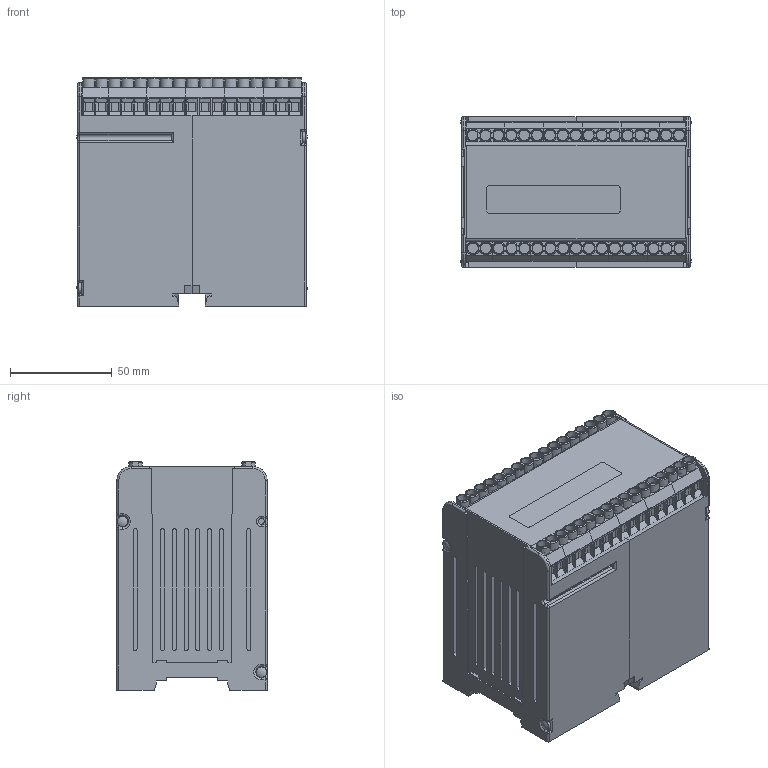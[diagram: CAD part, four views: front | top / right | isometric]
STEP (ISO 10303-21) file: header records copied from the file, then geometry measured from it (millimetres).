
FILE_DESCRIPTION(/* description */ (''),/* implementation_level */ '2;1');
FILE_NAME(/* name */ 'X:\Digidirect\CAD\Importierte Komponenten\IRDH275_=XM112\IRDH275_=XM112 5.stp',/* time_stamp */ '2013-10-10T12:02:11+02:00',/* author */ ('Maik Jost'),/* organization */ (''),/* preprocessor_version */ 'ST-DEVELOPER v15.2',/* originating_system */ 'Autodesk Inventor 2014',/* authorisation */ '');
FILE_SCHEMA (('CONFIG_CONTROL_DESIGN'));
Length unit declared in the file: millimetre
Products named in the file (2): IRDH275_=XM112_Substitute_5; IRDH275_=XM112
Bounding box: 113.24 x 74 x 112.3 mm (x, y, z)
Surface area: 83222.2 mm2 (no closed solid volume)
Topology: 0 solids, 30 shells, 987 faces, 3416 edges, 2409 vertices
Faces by surface type: plane 642, cylinder 251, torus 78, sphere 16
Full cylindrical faces by diameter (mm): 2 x4, 2.8 x2, 5.2 x34, 5.4 x4
Entity records: 38451 total; most frequent: CARTESIAN_POINT 10067, DIRECTION 5555, ORIENTED_EDGE 5398, EDGE_CURVE 3326, LINE 2537, VECTOR 2537, VERTEX_POINT 2375, AXIS2_PLACEMENT_3D 1509
